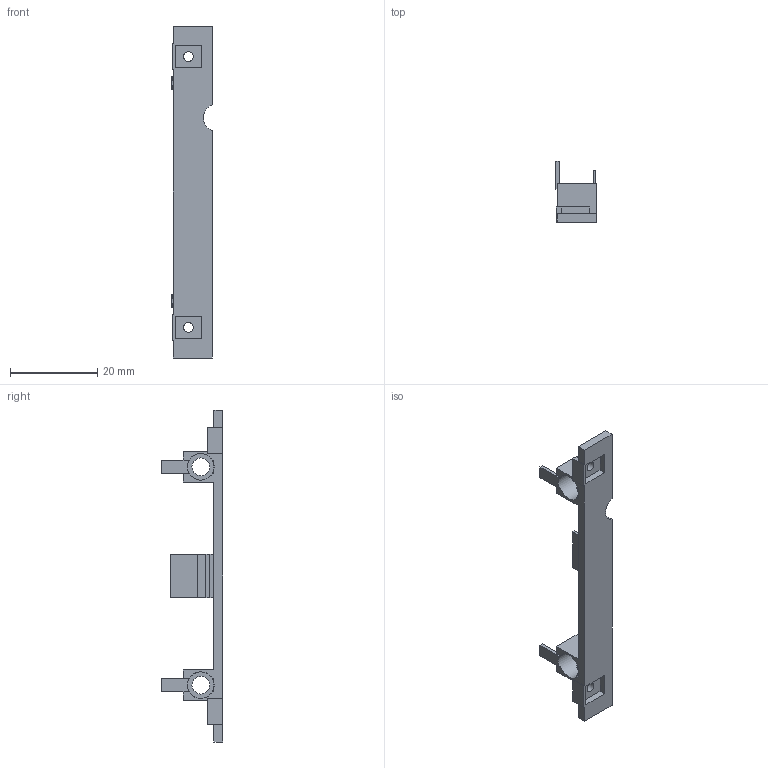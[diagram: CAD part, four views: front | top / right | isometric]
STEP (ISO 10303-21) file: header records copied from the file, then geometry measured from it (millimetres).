
FILE_DESCRIPTION(('Open CASCADE Model'),'2;1');
FILE_NAME('CASSETTE_PTT_CNC','2026-09-06T11:49:22',('Author'),( 'Open CASCADE'),'Open CASCADE STEP processor 7.8','build123d', 'Unknown');
FILE_SCHEMA(('AUTOMOTIVE_DESIGN { 1 0 10303 214 1 1 1 1 }'));
Length unit declared in the file: millimetre
Products named in the file (1): CASSETTE_PTT_CNC
Bounding box: 9.35 x 14 x 76 mm (x, y, z)
Volume: 1957.5 mm3; surface area: 2803.9 mm2
Topology: 1 solids, 1 shells, 83 faces, 234 edges, 156 vertices
Faces by surface type: plane 76, cylinder 7
Full cylindrical faces by diameter (mm): 2.2 x2, 4.05 x2, 6.1 x2
Entity records: 5650 total; most frequent: CARTESIAN_POINT 1068, DIRECTION 800, LINE 560, VECTOR 560, ORIENTED_EDGE 468, PCURVE 468, DEFINITIONAL_REPRESENTATION 468, EDGE_CURVE 234
